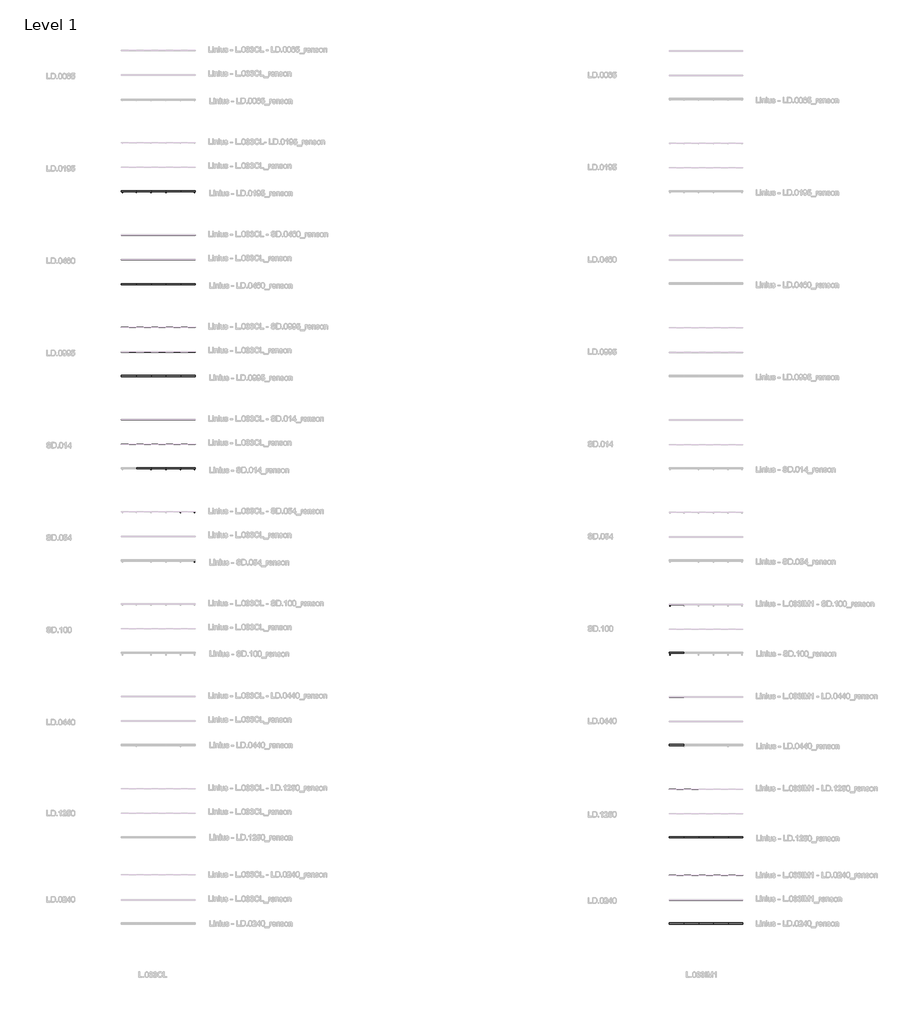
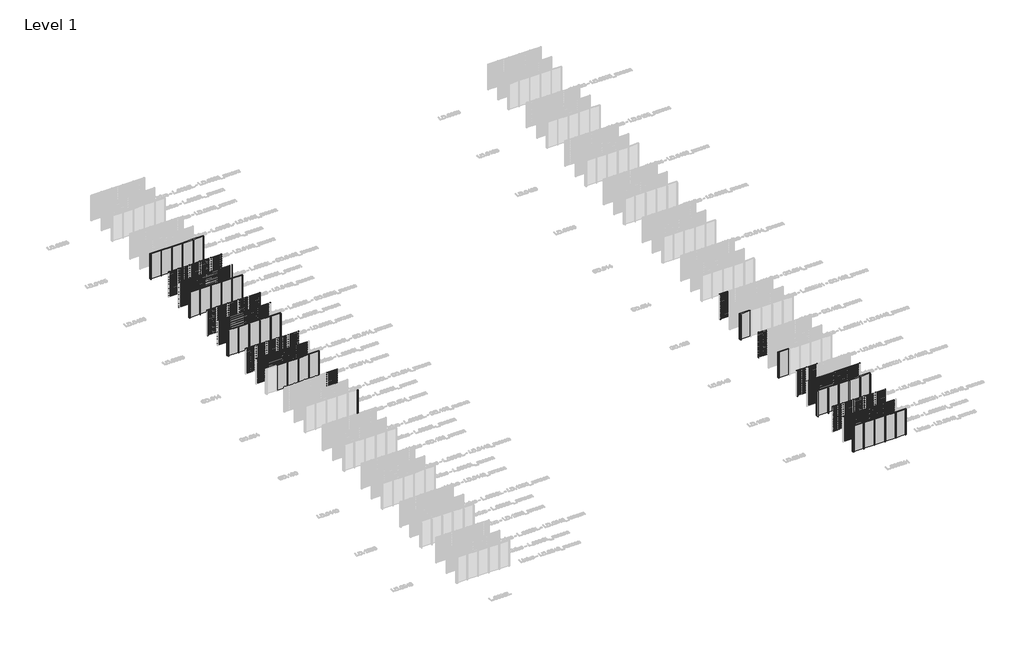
# One storey, part 7 of 507: 66 members, 61 plates.
"""IFC4 building model written with IfcOpenShell, lengths in millimetres."""

from ifc_helpers import new_model, si_unit, origin, origin_with_axes, place, context, project, spatial, polyline, outline, extrude, transform, mapped, element, save
from components import rectangular_mullion_e1f482b2, rectangular_mullion_21e3ddae, rectangular_mullion_fb497acc, rectangular_mullion_3facce28, rectangular_mullion_6cf2c509, rectangular_mullion_7803f5c4, rectangular_mullion_82152e2f, rectangular_mullion_146f339b, rectangular_mullion_aa1047c5, rectangular_mullion_c2c7736a, rectangular_mullion_35b0a916, rectangular_mullion_bd250e2e, rectangular_mullion_7b49c8f1, rectangular_mullion_2b84ad7e, rectangular_mullion_0fd695e7, rectangular_mullion_dfb17e98, rectangular_mullion_6132f1f1, rectangular_mullion_5b30f3fd, rectangular_mullion_d2d38772, rectangular_mullion_efb80f74, rectangular_mullion_aaa1fb1b, rectangular_mullion_ea9d012c, empty_system_panel_empty_aabbdda4

model = new_model("IFC4")

# Units and contexts
model_context = context("Model", 3, world=origin())
ifc_project = project(units=[si_unit("LENGTHUNIT", "METRE", prefix="MILLI")], contexts=[model_context])

# Site, building, storey
site = spatial("IfcSite", under=ifc_project)
building = spatial("IfcBuilding", under=site)
storey = spatial("IfcBuildingStorey", under=building, Name="Level 1", Elevation=0.0)

# Members
placement = place(None, origin())
rectangular_mullion_shape = rectangular_mullion_e1f482b2(model_context)
element("IfcMember", 1, ObjectType="Rectangular Mullion : LD.0195_renson", at=placement, inside=storey, context=model_context, shape_type="MappedRepresentation", body=[
    mapped(rectangular_mullion_shape, transform((180866.6208097, 62481.0540136, 0.0), x_axis=(-1.0, 0.0, 0.0), y_axis=(0.0, 1.0, 0.0), z_axis=(0.0, 0.0, -1.0))),
])
element("IfcMember", 2, ObjectType="Rectangular Mullion : LD.0195_renson", at=placement, inside=storey, context=model_context, shape_type="MappedRepresentation", body=[
    mapped(rectangular_mullion_shape, transform((179666.6208099, 62481.0540136, 0.0), x_axis=(-1.0, 0.0, 0.0), y_axis=(0.0, 1.0, 0.0), z_axis=(0.0, 0.0, -1.0))),
])
element("IfcMember", 3, ObjectType="Rectangular Mullion : LD.0195_renson", at=placement, inside=storey, context=model_context, shape_type="MappedRepresentation", body=[
    mapped(rectangular_mullion_shape, transform((182066.6208096, 62481.0540136, 0.0), x_axis=(-1.0, 0.0, 0.0), y_axis=(0.0, 1.0, 0.0), z_axis=(0.0, 0.0, -1.0))),
])
element("IfcMember", 4, ObjectType="Rectangular Mullion : LD.0195_renson", at=placement, inside=storey, context=model_context, shape_type="MappedRepresentation", body=[
    mapped(rectangular_mullion_shape, transform((183266.6208095, 62481.0540136, 0.0), x_axis=(-1.0, 0.0, 0.0), y_axis=(0.0, 1.0, 0.0), z_axis=(0.0, 0.0, -1.0))),
])
rectangular_mullion_2_shape = rectangular_mullion_21e3ddae(model_context)
element("IfcMember", 5, ObjectType="Rectangular Mullion : LD.0460_renson", at=placement, inside=storey, context=model_context, shape_type="MappedRepresentation", body=[
    mapped(rectangular_mullion_2_shape, transform((183266.6208097, 59025.0540136, 0.0), x_axis=(-1.0, 0.0, 0.0), y_axis=(0.0, 1.0, 0.0), z_axis=(0.0, 0.0, -1.0))),
])
element("IfcMember", 6, ObjectType="Rectangular Mullion : LD.0460_renson", at=placement, inside=storey, context=model_context, shape_type="MappedRepresentation", body=[
    mapped(rectangular_mullion_2_shape, transform((182066.6208097, 59025.0540136, 0.0), x_axis=(-1.0, 0.0, 0.0), y_axis=(0.0, 1.0, 0.0), z_axis=(0.0, 0.0, -1.0))),
])
element("IfcMember", 7, ObjectType="Rectangular Mullion : LD.0460_renson", at=placement, inside=storey, context=model_context, shape_type="MappedRepresentation", body=[
    mapped(rectangular_mullion_2_shape, transform((180866.6208097, 59025.0540136, 0.0), x_axis=(-1.0, 0.0, 0.0), y_axis=(0.0, 1.0, 0.0), z_axis=(0.0, 0.0, -1.0))),
])
element("IfcMember", 8, ObjectType="Rectangular Mullion : LD.0460_renson", at=placement, inside=storey, context=model_context, shape_type="MappedRepresentation", body=[
    mapped(rectangular_mullion_2_shape, transform((179666.6208097, 59025.0540136, 0.0), x_axis=(-1.0, 0.0, 0.0), y_axis=(0.0, 1.0, 0.0), z_axis=(0.0, 0.0, -1.0))),
])
element("IfcMember", 9, ObjectType="Rectangular Mullion : LD.0460_renson", at=placement, inside=storey, context=model_context, shape_type="MappedRepresentation", body=[
    mapped(rectangular_mullion_2_shape, transform((180866.6208097, 54931.0540136, 0.0), x_axis=(-1.0, 0.0, 0.0), y_axis=(0.0, 1.0, 0.0), z_axis=(0.0, 0.0, -1.0))),
])
element("IfcMember", 10, ObjectType="Rectangular Mullion : LD.0460_renson", at=placement, inside=storey, context=model_context, shape_type="MappedRepresentation", body=[
    mapped(rectangular_mullion_2_shape, transform((179666.6208099, 54931.0540136, 0.0), x_axis=(-1.0, 0.0, 0.0), y_axis=(0.0, 1.0, 0.0), z_axis=(0.0, 0.0, -1.0))),
])
element("IfcMember", 11, ObjectType="Rectangular Mullion : LD.0460_renson", at=placement, inside=storey, context=model_context, shape_type="MappedRepresentation", body=[
    mapped(rectangular_mullion_2_shape, transform((182066.6208096, 54931.0540136, 0.0), x_axis=(-1.0, 0.0, 0.0), y_axis=(0.0, 1.0, 0.0), z_axis=(0.0, 0.0, -1.0))),
])
element("IfcMember", 12, ObjectType="Rectangular Mullion : LD.0460_renson", at=placement, inside=storey, context=model_context, shape_type="MappedRepresentation", body=[
    mapped(rectangular_mullion_2_shape, transform((183266.6208095, 54931.0540136, 0.0), x_axis=(-1.0, 0.0, 0.0), y_axis=(0.0, 1.0, 0.0), z_axis=(0.0, 0.0, -1.0))),
])
rectangular_mullion_3_shape = rectangular_mullion_fb497acc(model_context)
element("IfcMember", 13, ObjectType="Rectangular Mullion : LD.0995_renson", at=placement, inside=storey, context=model_context, shape_type="MappedRepresentation", body=[
    mapped(rectangular_mullion_3_shape, transform((183266.6208097, 51525.0540136, 0.0), x_axis=(-1.0, 0.0, 0.0), y_axis=(0.0, 1.0, 0.0), z_axis=(0.0, 0.0, -1.0))),
])
element("IfcMember", 14, ObjectType="Rectangular Mullion : LD.0995_renson", at=placement, inside=storey, context=model_context, shape_type="MappedRepresentation", body=[
    mapped(rectangular_mullion_3_shape, transform((182066.6208097, 51525.0540136, 0.0), x_axis=(-1.0, 0.0, 0.0), y_axis=(0.0, 1.0, 0.0), z_axis=(0.0, 0.0, -1.0))),
])
element("IfcMember", 15, ObjectType="Rectangular Mullion : LD.0995_renson", at=placement, inside=storey, context=model_context, shape_type="MappedRepresentation", body=[
    mapped(rectangular_mullion_3_shape, transform((180866.6208097, 51525.0540136, 0.0), x_axis=(-1.0, 0.0, 0.0), y_axis=(0.0, 1.0, 0.0), z_axis=(0.0, 0.0, -1.0))),
])
element("IfcMember", 16, ObjectType="Rectangular Mullion : LD.0995_renson", at=placement, inside=storey, context=model_context, shape_type="MappedRepresentation", body=[
    mapped(rectangular_mullion_3_shape, transform((179666.6208097, 51525.0540136, 0.0), x_axis=(-1.0, 0.0, 0.0), y_axis=(0.0, 1.0, 0.0), z_axis=(0.0, 0.0, -1.0))),
])
element("IfcMember", 17, ObjectType="Rectangular Mullion : LD.0995_renson", at=placement, inside=storey, context=model_context, shape_type="MappedRepresentation", body=[
    mapped(rectangular_mullion_3_shape, transform((180866.6208097, 47481.0540136, 0.0), x_axis=(-1.0, 0.0, 0.0), y_axis=(0.0, 1.0, 0.0), z_axis=(0.0, 0.0, -1.0))),
])
element("IfcMember", 18, ObjectType="Rectangular Mullion : LD.0995_renson", at=placement, inside=storey, context=model_context, shape_type="MappedRepresentation", body=[
    mapped(rectangular_mullion_3_shape, transform((179666.6208099, 47481.0540136, 0.0), x_axis=(-1.0, 0.0, 0.0), y_axis=(0.0, 1.0, 0.0), z_axis=(0.0, 0.0, -1.0))),
])
element("IfcMember", 19, ObjectType="Rectangular Mullion : LD.0995_renson", at=placement, inside=storey, context=model_context, shape_type="MappedRepresentation", body=[
    mapped(rectangular_mullion_3_shape, transform((182066.6208096, 47481.0540136, 0.0), x_axis=(-1.0, 0.0, 0.0), y_axis=(0.0, 1.0, 0.0), z_axis=(0.0, 0.0, -1.0))),
])
element("IfcMember", 20, ObjectType="Rectangular Mullion : LD.0995_renson", at=placement, inside=storey, context=model_context, shape_type="MappedRepresentation", body=[
    mapped(rectangular_mullion_3_shape, transform((183266.6208095, 47481.0540136, 0.0), x_axis=(-1.0, 0.0, 0.0), y_axis=(0.0, 1.0, 0.0), z_axis=(0.0, 0.0, -1.0))),
])
rectangular_mullion_4_shape = rectangular_mullion_3facce28(model_context)
element("IfcMember", 21, ObjectType="Rectangular Mullion : SD.014_renson", at=placement, inside=storey, context=model_context, shape_type="MappedRepresentation", body=[
    mapped(rectangular_mullion_4_shape, transform((183266.6208097, 44025.0540136, 0.0), x_axis=(-1.0, 0.0, 0.0), y_axis=(0.0, 1.0, 0.0), z_axis=(0.0, 0.0, -1.0))),
])
element("IfcMember", 22, ObjectType="Rectangular Mullion : SD.014_renson", at=placement, inside=storey, context=model_context, shape_type="MappedRepresentation", body=[
    mapped(rectangular_mullion_4_shape, transform((182066.6208097, 44025.0540136, 0.0), x_axis=(-1.0, 0.0, 0.0), y_axis=(0.0, 1.0, 0.0), z_axis=(0.0, 0.0, -1.0))),
])
element("IfcMember", 23, ObjectType="Rectangular Mullion : SD.014_renson", at=placement, inside=storey, context=model_context, shape_type="MappedRepresentation", body=[
    mapped(rectangular_mullion_4_shape, transform((180866.6208097, 44025.0540136, 0.0), x_axis=(-1.0, 0.0, 0.0), y_axis=(0.0, 1.0, 0.0), z_axis=(0.0, 0.0, -1.0))),
])
element("IfcMember", 24, ObjectType="Rectangular Mullion : SD.014_renson", at=placement, inside=storey, context=model_context, shape_type="MappedRepresentation", body=[
    mapped(rectangular_mullion_4_shape, transform((179666.6208097, 44025.0540136, 0.0), x_axis=(-1.0, 0.0, 0.0), y_axis=(0.0, 1.0, 0.0), z_axis=(0.0, 0.0, -1.0))),
])
element("IfcMember", 25, ObjectType="Rectangular Mullion : SD.014_renson", at=placement, inside=storey, context=model_context, shape_type="MappedRepresentation", body=[
    mapped(rectangular_mullion_4_shape, transform((180866.6208097, 39981.0540136, 0.0), x_axis=(-1.0, 0.0, 0.0), y_axis=(0.0, 1.0, 0.0), z_axis=(0.0, 0.0, -1.0))),
])
element("IfcMember", 26, ObjectType="Rectangular Mullion : SD.014_renson", at=placement, inside=storey, context=model_context, shape_type="MappedRepresentation", body=[
    mapped(rectangular_mullion_4_shape, transform((182066.6208096, 39981.0540136, 0.0), x_axis=(-1.0, 0.0, 0.0), y_axis=(0.0, 1.0, 0.0), z_axis=(0.0, 0.0, -1.0))),
])
element("IfcMember", 27, ObjectType="Rectangular Mullion : SD.014_renson", at=placement, inside=storey, context=model_context, shape_type="MappedRepresentation", body=[
    mapped(rectangular_mullion_4_shape, transform((183266.6208095, 39981.0540136, 0.0), x_axis=(-1.0, 0.0, 0.0), y_axis=(0.0, 1.0, 0.0), z_axis=(0.0, 0.0, -1.0))),
])
rectangular_mullion_5_shape = rectangular_mullion_6cf2c509(model_context)
element("IfcMember", 28, ObjectType="Rectangular Mullion : SD.054_renson", at=placement, inside=storey, context=model_context, shape_type="MappedRepresentation", body=[
    mapped(rectangular_mullion_5_shape, transform((183266.6208097, 36525.0540136, 0.0), x_axis=(-1.0, 0.0, 0.0), y_axis=(0.0, 1.0, 0.0), z_axis=(0.0, 0.0, -1.0))),
])
rectangular_mullion_6_shape = rectangular_mullion_7803f5c4(model_context)
element("IfcMember", 29, ObjectType="Rectangular Mullion : LD.1250_renson", at=placement, inside=storey, context=model_context, shape_type="MappedRepresentation", body=[
    mapped(rectangular_mullion_6_shape, transform((227766.6208095, 9983.0540136, 0.0), x_axis=(-1.0, 0.0, 0.0), y_axis=(0.0, 1.0, 0.0), z_axis=(0.0, 0.0, -1.0))),
])
element("IfcMember", 30, ObjectType="Rectangular Mullion : LD.1250_renson", at=placement, inside=storey, context=model_context, shape_type="MappedRepresentation", body=[
    mapped(rectangular_mullion_6_shape, transform((226566.6208096, 9983.0540136, 0.0), x_axis=(-1.0, 0.0, 0.0), y_axis=(0.0, 1.0, 0.0), z_axis=(0.0, 0.0, -1.0))),
])
element("IfcMember", 31, ObjectType="Rectangular Mullion : LD.1250_renson", at=placement, inside=storey, context=model_context, shape_type="MappedRepresentation", body=[
    mapped(rectangular_mullion_6_shape, transform((225366.6208097, 9983.0540136, 0.0), x_axis=(-1.0, 0.0, 0.0), y_axis=(0.0, 1.0, 0.0), z_axis=(0.0, 0.0, -1.0))),
])
element("IfcMember", 32, ObjectType="Rectangular Mullion : LD.1250_renson", at=placement, inside=storey, context=model_context, shape_type="MappedRepresentation", body=[
    mapped(rectangular_mullion_6_shape, transform((224166.6208099, 9983.0540136, 0.0), x_axis=(-1.0, 0.0, 0.0), y_axis=(0.0, 1.0, 0.0), z_axis=(0.0, 0.0, -1.0))),
])
rectangular_mullion_7_shape = rectangular_mullion_82152e2f(model_context)
element("IfcMember", 33, ObjectType="Rectangular Mullion : LD.0240_renson", at=placement, inside=storey, context=model_context, shape_type="MappedRepresentation", body=[
    mapped(rectangular_mullion_7_shape, transform((227766.6208097, 6987.0270068, 0.0), x_axis=(-1.0, 0.0, 0.0), y_axis=(0.0, 1.0, 0.0), z_axis=(0.0, 0.0, -1.0))),
])
element("IfcMember", 34, ObjectType="Rectangular Mullion : LD.0240_renson", at=placement, inside=storey, context=model_context, shape_type="MappedRepresentation", body=[
    mapped(rectangular_mullion_7_shape, transform((226566.6208097, 6987.0270068, 0.0), x_axis=(-1.0, 0.0, 0.0), y_axis=(0.0, 1.0, 0.0), z_axis=(0.0, 0.0, -1.0))),
])
element("IfcMember", 35, ObjectType="Rectangular Mullion : LD.0240_renson", at=placement, inside=storey, context=model_context, shape_type="MappedRepresentation", body=[
    mapped(rectangular_mullion_7_shape, transform((225366.6208097, 6987.0270068, 0.0), x_axis=(-1.0, 0.0, 0.0), y_axis=(0.0, 1.0, 0.0), z_axis=(0.0, 0.0, -1.0))),
])
element("IfcMember", 36, ObjectType="Rectangular Mullion : LD.0240_renson", at=placement, inside=storey, context=model_context, shape_type="MappedRepresentation", body=[
    mapped(rectangular_mullion_7_shape, transform((224166.6208097, 6987.0270068, 0.0), x_axis=(-1.0, 0.0, 0.0), y_axis=(0.0, 1.0, 0.0), z_axis=(0.0, 0.0, -1.0))),
])
element("IfcMember", 37, ObjectType="Rectangular Mullion : LD.0240_renson", at=placement, inside=storey, context=model_context, shape_type="MappedRepresentation", body=[
    mapped(rectangular_mullion_7_shape, transform((227766.6208095, 2987.0270068, 0.0), x_axis=(-1.0, 0.0, 0.0), y_axis=(0.0, 1.0, 0.0), z_axis=(0.0, 0.0, -1.0))),
])
element("IfcMember", 38, ObjectType="Rectangular Mullion : LD.0240_renson", at=placement, inside=storey, context=model_context, shape_type="MappedRepresentation", body=[
    mapped(rectangular_mullion_7_shape, transform((226566.6208096, 2987.0270068, 0.0), x_axis=(-1.0, 0.0, 0.0), y_axis=(0.0, 1.0, 0.0), z_axis=(0.0, 0.0, -1.0))),
])
element("IfcMember", 39, ObjectType="Rectangular Mullion : LD.0240_renson", at=placement, inside=storey, context=model_context, shape_type="MappedRepresentation", body=[
    mapped(rectangular_mullion_7_shape, transform((225366.6208097, 2987.0270068, 0.0), x_axis=(-1.0, 0.0, 0.0), y_axis=(0.0, 1.0, 0.0), z_axis=(0.0, 0.0, -1.0))),
])
element("IfcMember", 40, ObjectType="Rectangular Mullion : LD.0240_renson", at=placement, inside=storey, context=model_context, shape_type="MappedRepresentation", body=[
    mapped(rectangular_mullion_7_shape, transform((224166.6208099, 2987.0270068, 0.0), x_axis=(-1.0, 0.0, 0.0), y_axis=(0.0, 1.0, 0.0), z_axis=(0.0, 0.0, -1.0))),
])
rectangular_mullion_8_shape = rectangular_mullion_146f339b(model_context)
element("IfcMember", 41, ObjectType="Rectangular Mullion : LD.0195 - left_renson", at=placement, inside=storey, context=model_context, shape_type="MappedRepresentation", body=[
    mapped(rectangular_mullion_8_shape, transform((178466.6208097, 62481.0540136, 0.0), x_axis=(-1.0, 0.0, 0.0), y_axis=(0.0, 1.0, 0.0), z_axis=(0.0, 0.0, -1.0))),
])
rectangular_mullion_9_shape = rectangular_mullion_aa1047c5(model_context)
element("IfcMember", 42, ObjectType="Rectangular Mullion : LD.0195 - right_renson", at=placement, inside=storey, context=model_context, shape_type="MappedRepresentation", body=[
    mapped(rectangular_mullion_9_shape, transform((184466.6208097, 62481.0540136, 3000.0), x_axis=(1.0, 0.0, 0.0), y_axis=(0.0, 1.0, 0.0), z_axis=(0.0, 0.0, 1.0))),
])
rectangular_mullion_10_shape = rectangular_mullion_c2c7736a(model_context)
element("IfcMember", 43, ObjectType="Rectangular Mullion : LD.0460 - left_renson", at=placement, inside=storey, context=model_context, shape_type="MappedRepresentation", body=[
    mapped(rectangular_mullion_10_shape, transform((178466.6208097, 59025.0540136, 0.0), x_axis=(-1.0, 0.0, 0.0), y_axis=(0.0, 1.0, 0.0), z_axis=(0.0, 0.0, -1.0))),
])
element("IfcMember", 44, ObjectType="Rectangular Mullion : LD.0460 - left_renson", at=placement, inside=storey, context=model_context, shape_type="MappedRepresentation", body=[
    mapped(rectangular_mullion_10_shape, transform((178466.6208097, 54931.0540136, 0.0), x_axis=(-1.0, 0.0, 0.0), y_axis=(0.0, 1.0, 0.0), z_axis=(0.0, 0.0, -1.0))),
])
rectangular_mullion_11_shape = rectangular_mullion_35b0a916(model_context)
element("IfcMember", 45, ObjectType="Rectangular Mullion : LD.0460 - right_renson", at=placement, inside=storey, context=model_context, shape_type="MappedRepresentation", body=[
    mapped(rectangular_mullion_11_shape, transform((184466.6208097, 59025.0540136, 3000.0), x_axis=(1.0, 0.0, 0.0), y_axis=(0.0, 1.0, 0.0), z_axis=(0.0, 0.0, 1.0))),
])
element("IfcMember", 46, ObjectType="Rectangular Mullion : LD.0460 - right_renson", at=placement, inside=storey, context=model_context, shape_type="MappedRepresentation", body=[
    mapped(rectangular_mullion_11_shape, transform((184466.6208097, 54931.0540136, 3000.0), x_axis=(1.0, 0.0, 0.0), y_axis=(0.0, 1.0, 0.0), z_axis=(0.0, 0.0, 1.0))),
])
rectangular_mullion_12_shape = rectangular_mullion_bd250e2e(model_context)
element("IfcMember", 47, ObjectType="Rectangular Mullion : LD.0995 - left_renson", at=placement, inside=storey, context=model_context, shape_type="MappedRepresentation", body=[
    mapped(rectangular_mullion_12_shape, transform((178466.6208097, 51525.0540136, 0.0), x_axis=(-1.0, 0.0, 0.0), y_axis=(0.0, 1.0, 0.0), z_axis=(0.0, 0.0, -1.0))),
])
element("IfcMember", 48, ObjectType="Rectangular Mullion : LD.0995 - left_renson", at=placement, inside=storey, context=model_context, shape_type="MappedRepresentation", body=[
    mapped(rectangular_mullion_12_shape, transform((178466.6208097, 47481.0540136, 0.0), x_axis=(-1.0, 0.0, 0.0), y_axis=(0.0, 1.0, 0.0), z_axis=(0.0, 0.0, -1.0))),
])
rectangular_mullion_13_shape = rectangular_mullion_7b49c8f1(model_context)
element("IfcMember", 49, ObjectType="Rectangular Mullion : LD.0995 - right_renson", at=placement, inside=storey, context=model_context, shape_type="MappedRepresentation", body=[
    mapped(rectangular_mullion_13_shape, transform((184466.6208097, 51525.0540136, 3000.0), x_axis=(1.0, 0.0, 0.0), y_axis=(0.0, 1.0, 0.0), z_axis=(0.0, 0.0, 1.0))),
])
element("IfcMember", 50, ObjectType="Rectangular Mullion : LD.0995 - right_renson", at=placement, inside=storey, context=model_context, shape_type="MappedRepresentation", body=[
    mapped(rectangular_mullion_13_shape, transform((184466.6208097, 47481.0540136, 3000.0), x_axis=(1.0, 0.0, 0.0), y_axis=(0.0, 1.0, 0.0), z_axis=(0.0, 0.0, 1.0))),
])
rectangular_mullion_14_shape = rectangular_mullion_2b84ad7e(model_context)
element("IfcMember", 51, ObjectType="Rectangular Mullion : SD.014 - left_renson", at=placement, inside=storey, context=model_context, shape_type="MappedRepresentation", body=[
    mapped(rectangular_mullion_14_shape, transform((178466.6208097, 44025.0540136, 0.0), x_axis=(-1.0, 0.0, 0.0), y_axis=(0.0, 1.0, 0.0), z_axis=(0.0, 0.0, -1.0))),
])
rectangular_mullion_15_shape = rectangular_mullion_0fd695e7(model_context)
element("IfcMember", 52, ObjectType="Rectangular Mullion : SD.014 - right_renson", at=placement, inside=storey, context=model_context, shape_type="MappedRepresentation", body=[
    mapped(rectangular_mullion_15_shape, transform((184466.6208097, 44025.0540136, 3000.0), x_axis=(1.0, 0.0, 0.0), y_axis=(0.0, 1.0, 0.0), z_axis=(0.0, 0.0, 1.0))),
])
element("IfcMember", 53, ObjectType="Rectangular Mullion : SD.014 - right_renson", at=placement, inside=storey, context=model_context, shape_type="MappedRepresentation", body=[
    mapped(rectangular_mullion_15_shape, transform((184466.6208097, 39981.0540136, 3000.0), x_axis=(1.0, 0.0, 0.0), y_axis=(0.0, 1.0, 0.0), z_axis=(0.0, 0.0, 1.0))),
])
rectangular_mullion_16_shape = rectangular_mullion_dfb17e98(model_context)
element("IfcMember", 54, ObjectType="Rectangular Mullion : SD.054 - right_renson", at=placement, inside=storey, context=model_context, shape_type="MappedRepresentation", body=[
    mapped(rectangular_mullion_16_shape, transform((184466.6208097, 36525.0540136, 3000.0), x_axis=(1.0, 0.0, 0.0), y_axis=(0.0, 1.0, 0.0), z_axis=(0.0, 0.0, 1.0))),
])
element("IfcMember", 55, ObjectType="Rectangular Mullion : SD.054 - right_renson", at=placement, inside=storey, context=model_context, shape_type="MappedRepresentation", body=[
    mapped(rectangular_mullion_16_shape, transform((184466.6208097, 32481.0540136, 3000.0), x_axis=(1.0, 0.0, 0.0), y_axis=(0.0, 1.0, 0.0), z_axis=(0.0, 0.0, 1.0))),
])
rectangular_mullion_17_shape = rectangular_mullion_6132f1f1(model_context)
element("IfcMember", 56, ObjectType="Rectangular Mullion : SD.100 - left_renson", at=placement, inside=storey, context=model_context, shape_type="MappedRepresentation", body=[
    mapped(rectangular_mullion_17_shape, transform((222966.6208097, 28983.0540136, 0.0), x_axis=(-1.0, 0.0, 0.0), y_axis=(0.0, 1.0, 0.0), z_axis=(0.0, 0.0, -1.0))),
])
element("IfcMember", 57, ObjectType="Rectangular Mullion : SD.100 - left_renson", at=placement, inside=storey, context=model_context, shape_type="MappedRepresentation", body=[
    mapped(rectangular_mullion_17_shape, transform((222966.6208097, 24983.0540136, 0.0), x_axis=(-1.0, 0.0, 0.0), y_axis=(0.0, 1.0, 0.0), z_axis=(0.0, 0.0, -1.0))),
])
rectangular_mullion_18_shape = rectangular_mullion_5b30f3fd(model_context)
element("IfcMember", 58, ObjectType="Rectangular Mullion : LD.0440 - left_renson", at=placement, inside=storey, context=model_context, shape_type="MappedRepresentation", body=[
    mapped(rectangular_mullion_18_shape, transform((222966.6208097, 21483.0540136, 0.0), x_axis=(-1.0, 0.0, 0.0), y_axis=(0.0, 1.0, 0.0), z_axis=(0.0, 0.0, -1.0))),
])
element("IfcMember", 59, ObjectType="Rectangular Mullion : LD.0440 - left_renson", at=placement, inside=storey, context=model_context, shape_type="MappedRepresentation", body=[
    mapped(rectangular_mullion_18_shape, transform((222966.6208097, 17483.0540136, 0.0), x_axis=(-1.0, 0.0, 0.0), y_axis=(0.0, 1.0, 0.0), z_axis=(0.0, 0.0, -1.0))),
])
rectangular_mullion_19_shape = rectangular_mullion_d2d38772(model_context)
element("IfcMember", 60, ObjectType="Rectangular Mullion : LD.1250 - left_renson", at=placement, inside=storey, context=model_context, shape_type="MappedRepresentation", body=[
    mapped(rectangular_mullion_19_shape, transform((222966.6208097, 13983.0540136, 0.0), x_axis=(-1.0, 0.0, 0.0), y_axis=(0.0, 1.0, 0.0), z_axis=(0.0, 0.0, -1.0))),
])
element("IfcMember", 61, ObjectType="Rectangular Mullion : LD.1250 - left_renson", at=placement, inside=storey, context=model_context, shape_type="MappedRepresentation", body=[
    mapped(rectangular_mullion_19_shape, transform((222966.6208097, 9983.0540136, 0.0), x_axis=(-1.0, 0.0, 0.0), y_axis=(0.0, 1.0, 0.0), z_axis=(0.0, 0.0, -1.0))),
])
rectangular_mullion_20_shape = rectangular_mullion_efb80f74(model_context)
element("IfcMember", 62, ObjectType="Rectangular Mullion : LD.1250 - right_renson", at=placement, inside=storey, context=model_context, shape_type="MappedRepresentation", body=[
    mapped(rectangular_mullion_20_shape, transform((228966.6208097, 9983.0540136, 3000.0), x_axis=(1.0, 0.0, 0.0), y_axis=(0.0, 1.0, 0.0), z_axis=(0.0, 0.0, 1.0))),
])
rectangular_mullion_21_shape = rectangular_mullion_aaa1fb1b(model_context)
element("IfcMember", 63, ObjectType="Rectangular Mullion : LD.0240 - left_renson", at=placement, inside=storey, context=model_context, shape_type="MappedRepresentation", body=[
    mapped(rectangular_mullion_21_shape, transform((222966.6208097, 6987.0270068, 0.0), x_axis=(-1.0, 0.0, 0.0), y_axis=(0.0, 1.0, 0.0), z_axis=(0.0, 0.0, -1.0))),
])
element("IfcMember", 64, ObjectType="Rectangular Mullion : LD.0240 - left_renson", at=placement, inside=storey, context=model_context, shape_type="MappedRepresentation", body=[
    mapped(rectangular_mullion_21_shape, transform((222966.6208097, 2987.0270068, 0.0), x_axis=(-1.0, 0.0, 0.0), y_axis=(0.0, 1.0, 0.0), z_axis=(0.0, 0.0, -1.0))),
])
rectangular_mullion_22_shape = rectangular_mullion_ea9d012c(model_context)
element("IfcMember", 65, ObjectType="Rectangular Mullion : LD.0240 - right_renson", at=placement, inside=storey, context=model_context, shape_type="MappedRepresentation", body=[
    mapped(rectangular_mullion_22_shape, transform((228966.6208097, 6987.0270068, 3000.0), x_axis=(1.0, 0.0, 0.0), y_axis=(0.0, 1.0, 0.0), z_axis=(0.0, 0.0, 1.0))),
])
element("IfcMember", 66, ObjectType="Rectangular Mullion : LD.0240 - right_renson", at=placement, inside=storey, context=model_context, shape_type="MappedRepresentation", body=[
    mapped(rectangular_mullion_22_shape, transform((228966.6208097, 2987.0270068, 3000.0), x_axis=(1.0, 0.0, 0.0), y_axis=(0.0, 1.0, 0.0), z_axis=(0.0, 0.0, 1.0))),
])

# Plates
element("IfcPlate", 67, ObjectType="Linius - L.033IM1_renson", at=placement, inside=storey, context=model_context, shape_type="SweptSolid", body=[
    extrude(outline(polyline([(222966.6208097, 4988.0270068), (228966.6208097, 4988.0270068), (228966.6208097, 4986.0270068), (222966.6208097, 4986.0270068), (222966.6208097, 4988.0270068)])), origin_with_axes(), (0.0, 0.0, 1.0), 3000.0),
])
element("IfcPlate", 68, ObjectType="Linius - L.033CL_renson", at=placement, inside=storey, context=model_context, shape_type="SweptSolid", body=[
    extrude(outline(polyline([(178466.6208097, 59026.0540136), (179666.6208097, 59026.0540136), (179666.6208097, 59024.0540136), (178466.6208097, 59024.0540136), (178466.6208097, 59026.0540136)])), origin_with_axes(), (0.0, 0.0, 1.0), 3000.0),
])
element("IfcPlate", 69, ObjectType="Linius - L.033CL_renson", at=placement, inside=storey, context=model_context, shape_type="SweptSolid", body=[
    extrude(outline(polyline([(179666.6208097, 59026.0540136), (180866.6208097, 59026.0540136), (180866.6208097, 59024.0540136), (179666.6208097, 59024.0540136), (179666.6208097, 59026.0540136)])), origin_with_axes(), (0.0, 0.0, 1.0), 3000.0),
])
element("IfcPlate", 70, ObjectType="Linius - L.033CL_renson", at=placement, inside=storey, context=model_context, shape_type="SweptSolid", body=[
    extrude(outline(polyline([(180866.6208097, 59026.0540136), (182066.6208097, 59026.0540136), (182066.6208097, 59024.0540136), (180866.6208097, 59024.0540136), (180866.6208097, 59026.0540136)])), origin_with_axes(), (0.0, 0.0, 1.0), 3000.0),
])
element("IfcPlate", 71, ObjectType="Linius - L.033CL_renson", at=placement, inside=storey, context=model_context, shape_type="SweptSolid", body=[
    extrude(outline(polyline([(182066.6208097, 59026.0540136), (183266.6208097, 59026.0540136), (183266.6208097, 59024.0540136), (182066.6208097, 59024.0540136), (182066.6208097, 59026.0540136)])), origin_with_axes(), (0.0, 0.0, 1.0), 3000.0),
])
element("IfcPlate", 72, ObjectType="Linius - L.033CL_renson", at=placement, inside=storey, context=model_context, shape_type="SweptSolid", body=[
    extrude(outline(polyline([(183266.6208097, 59026.0540136), (184466.6208097, 59026.0540136), (184466.6208097, 59024.0540136), (183266.6208097, 59024.0540136), (183266.6208097, 59026.0540136)])), origin_with_axes(), (0.0, 0.0, 1.0), 3000.0),
])
element("IfcPlate", 73, ObjectType="Linius - L.033CL_renson", at=placement, inside=storey, context=model_context, shape_type="SweptSolid", body=[
    extrude(outline(polyline([(178466.6208097, 57026.0540136), (184466.6208097, 57026.0540136), (184466.6208097, 57024.0540136), (178466.6208097, 57024.0540136), (178466.6208097, 57026.0540136)])), origin_with_axes(), (0.0, 0.0, 1.0), 3000.0),
])
element("IfcPlate", 74, ObjectType="Linius - L.033CL_renson", at=placement, inside=storey, context=model_context, shape_type="SweptSolid", body=[
    extrude(outline(polyline([(178466.6208097, 51526.0540136), (179666.6208097, 51526.0540136), (179666.6208097, 51524.0540136), (178466.6208097, 51524.0540136), (178466.6208097, 51526.0540136)])), origin_with_axes(), (0.0, 0.0, 1.0), 3000.0),
])
element("IfcPlate", 75, ObjectType="Linius - L.033CL_renson", at=placement, inside=storey, context=model_context, shape_type="SweptSolid", body=[
    extrude(outline(polyline([(179666.6208097, 51526.0540136), (180866.6208097, 51526.0540136), (180866.6208097, 51524.0540136), (179666.6208097, 51524.0540136), (179666.6208097, 51526.0540136)])), origin_with_axes(), (0.0, 0.0, 1.0), 3000.0),
])
element("IfcPlate", 76, ObjectType="Linius - L.033CL_renson", at=placement, inside=storey, context=model_context, shape_type="SweptSolid", body=[
    extrude(outline(polyline([(180866.6208097, 51526.0540136), (182066.6208097, 51526.0540136), (182066.6208097, 51524.0540136), (180866.6208097, 51524.0540136), (180866.6208097, 51526.0540136)])), origin_with_axes(), (0.0, 0.0, 1.0), 3000.0),
])
element("IfcPlate", 77, ObjectType="Linius - L.033CL_renson", at=placement, inside=storey, context=model_context, shape_type="SweptSolid", body=[
    extrude(outline(polyline([(182066.6208097, 51526.0540136), (183266.6208097, 51526.0540136), (183266.6208097, 51524.0540136), (182066.6208097, 51524.0540136), (182066.6208097, 51526.0540136)])), origin_with_axes(), (0.0, 0.0, 1.0), 3000.0),
])
element("IfcPlate", 78, ObjectType="Linius - L.033CL_renson", at=placement, inside=storey, context=model_context, shape_type="SweptSolid", body=[
    extrude(outline(polyline([(183266.6208097, 51526.0540136), (184466.6208097, 51526.0540136), (184466.6208097, 51524.0540136), (183266.6208097, 51524.0540136), (183266.6208097, 51526.0540136)])), origin_with_axes(), (0.0, 0.0, 1.0), 3000.0),
])
element("IfcPlate", 79, ObjectType="Linius - L.033CL_renson", at=placement, inside=storey, context=model_context, shape_type="SweptSolid", body=[
    extrude(outline(polyline([(178466.6208097, 49526.0540136), (184466.6208097, 49526.0540136), (184466.6208097, 49524.0540136), (178466.6208097, 49524.0540136), (178466.6208097, 49526.0540136)])), origin_with_axes(), (0.0, 0.0, 1.0), 3000.0),
])
element("IfcPlate", 80, ObjectType="Linius - L.033CL_renson", at=placement, inside=storey, context=model_context, shape_type="SweptSolid", body=[
    extrude(outline(polyline([(178466.6208097, 44026.0540136), (179666.6208097, 44026.0540136), (179666.6208097, 44024.0540136), (178466.6208097, 44024.0540136), (178466.6208097, 44026.0540136)])), origin_with_axes(), (0.0, 0.0, 1.0), 3000.0),
])
element("IfcPlate", 81, ObjectType="Linius - L.033CL_renson", at=placement, inside=storey, context=model_context, shape_type="SweptSolid", body=[
    extrude(outline(polyline([(179666.6208097, 44026.0540136), (180866.6208097, 44026.0540136), (180866.6208097, 44024.0540136), (179666.6208097, 44024.0540136), (179666.6208097, 44026.0540136)])), origin_with_axes(), (0.0, 0.0, 1.0), 3000.0),
])
element("IfcPlate", 82, ObjectType="Linius - L.033CL_renson", at=placement, inside=storey, context=model_context, shape_type="SweptSolid", body=[
    extrude(outline(polyline([(180866.6208097, 44026.0540136), (182066.6208097, 44026.0540136), (182066.6208097, 44024.0540136), (180866.6208097, 44024.0540136), (180866.6208097, 44026.0540136)])), origin_with_axes(), (0.0, 0.0, 1.0), 3000.0),
])
element("IfcPlate", 83, ObjectType="Linius - L.033CL_renson", at=placement, inside=storey, context=model_context, shape_type="SweptSolid", body=[
    extrude(outline(polyline([(182066.6208097, 44026.0540136), (183266.6208097, 44026.0540136), (183266.6208097, 44024.0540136), (182066.6208097, 44024.0540136), (182066.6208097, 44026.0540136)])), origin_with_axes(), (0.0, 0.0, 1.0), 3000.0),
])
element("IfcPlate", 84, ObjectType="Linius - L.033CL_renson", at=placement, inside=storey, context=model_context, shape_type="SweptSolid", body=[
    extrude(outline(polyline([(183266.6208097, 44026.0540136), (184466.6208097, 44026.0540136), (184466.6208097, 44024.0540136), (183266.6208097, 44024.0540136), (183266.6208097, 44026.0540136)])), origin_with_axes(), (0.0, 0.0, 1.0), 3000.0),
])
element("IfcPlate", 85, ObjectType="Linius - L.033CL_renson", at=placement, inside=storey, context=model_context, shape_type="SweptSolid", body=[
    extrude(outline(polyline([(178466.6208097, 42026.0540136), (184466.6208097, 42026.0540136), (184466.6208097, 42024.0540136), (178466.6208097, 42024.0540136), (178466.6208097, 42026.0540136)])), origin_with_axes(), (0.0, 0.0, 1.0), 3000.0),
])
element("IfcPlate", 86, ObjectType="Linius - L.033CL_renson", at=placement, inside=storey, context=model_context, shape_type="SweptSolid", body=[
    extrude(outline(polyline([(183266.6208097, 36526.0540136), (184466.6208097, 36526.0540136), (184466.6208097, 36524.0540136), (183266.6208097, 36524.0540136), (183266.6208097, 36526.0540136)])), origin_with_axes(), (0.0, 0.0, 1.0), 3000.0),
])
element("IfcPlate", 87, ObjectType="Linius - L.033IM1_renson", at=placement, inside=storey, context=model_context, shape_type="SweptSolid", body=[
    extrude(outline(polyline([(222966.6208097, 28984.0540136), (224166.6208097, 28984.0540136), (224166.6208097, 28982.0540136), (222966.6208097, 28982.0540136), (222966.6208097, 28984.0540136)])), origin_with_axes(), (0.0, 0.0, 1.0), 3000.0),
])
element("IfcPlate", 88, ObjectType="Linius - L.033IM1_renson", at=placement, inside=storey, context=model_context, shape_type="SweptSolid", body=[
    extrude(outline(polyline([(222966.6208097, 21484.0540136), (224166.6208097, 21484.0540136), (224166.6208097, 21482.0540136), (222966.6208097, 21482.0540136), (222966.6208097, 21484.0540136)])), origin_with_axes(), (0.0, 0.0, 1.0), 3000.0),
])
element("IfcPlate", 89, ObjectType="Linius - L.033IM1_renson", at=placement, inside=storey, context=model_context, shape_type="SweptSolid", body=[
    extrude(outline(polyline([(222966.6208097, 13984.0540136), (224166.6208097, 13984.0540136), (224166.6208097, 13982.0540136), (222966.6208097, 13982.0540136), (222966.6208097, 13984.0540136)])), origin_with_axes(), (0.0, 0.0, 1.0), 3000.0),
])
element("IfcPlate", 90, ObjectType="Linius - L.033IM1_renson", at=placement, inside=storey, context=model_context, shape_type="SweptSolid", body=[
    extrude(outline(polyline([(224166.6208097, 13984.0540136), (225366.6208097, 13984.0540136), (225366.6208097, 13982.0540136), (224166.6208097, 13982.0540136), (224166.6208097, 13984.0540136)])), origin_with_axes(), (0.0, 0.0, 1.0), 3000.0),
])
element("IfcPlate", 91, ObjectType="Linius - L.033IM1_renson", at=placement, inside=storey, context=model_context, shape_type="SweptSolid", body=[
    extrude(outline(polyline([(222966.6208097, 11984.0540136), (228966.6208097, 11984.0540136), (228966.6208097, 11982.0540136), (222966.6208097, 11982.0540136), (222966.6208097, 11984.0540136)])), origin_with_axes(), (0.0, 0.0, 1.0), 3000.0),
])
element("IfcPlate", 92, ObjectType="Linius - L.033IM1_renson", at=placement, inside=storey, context=model_context, shape_type="SweptSolid", body=[
    extrude(outline(polyline([(222966.6208097, 6988.0270068), (224166.6208097, 6988.0270068), (224166.6208097, 6986.0270068), (222966.6208097, 6986.0270068), (222966.6208097, 6988.0270068)])), origin_with_axes(), (0.0, 0.0, 1.0), 3000.0),
])
element("IfcPlate", 93, ObjectType="Linius - L.033IM1_renson", at=placement, inside=storey, context=model_context, shape_type="SweptSolid", body=[
    extrude(outline(polyline([(224166.6208097, 6988.0270068), (225366.6208097, 6988.0270068), (225366.6208097, 6986.0270068), (224166.6208097, 6986.0270068), (224166.6208097, 6988.0270068)])), origin_with_axes(), (0.0, 0.0, 1.0), 3000.0),
])
element("IfcPlate", 94, ObjectType="Linius - L.033IM1_renson", at=placement, inside=storey, context=model_context, shape_type="SweptSolid", body=[
    extrude(outline(polyline([(225366.6208097, 6988.0270068), (226566.6208097, 6988.0270068), (226566.6208097, 6986.0270068), (225366.6208097, 6986.0270068), (225366.6208097, 6988.0270068)])), origin_with_axes(), (0.0, 0.0, 1.0), 3000.0),
])
element("IfcPlate", 95, ObjectType="Linius - L.033IM1_renson", at=placement, inside=storey, context=model_context, shape_type="SweptSolid", body=[
    extrude(outline(polyline([(226566.6208097, 6988.0270068), (227766.6208097, 6988.0270068), (227766.6208097, 6986.0270068), (226566.6208097, 6986.0270068), (226566.6208097, 6988.0270068)])), origin_with_axes(), (0.0, 0.0, 1.0), 3000.0),
])
element("IfcPlate", 96, ObjectType="Linius - L.033IM1_renson", at=placement, inside=storey, context=model_context, shape_type="SweptSolid", body=[
    extrude(outline(polyline([(227766.6208097, 6988.0270068), (228966.6208097, 6988.0270068), (228966.6208097, 6986.0270068), (227766.6208097, 6986.0270068), (227766.6208097, 6988.0270068)])), origin_with_axes(), (0.0, 0.0, 1.0), 3000.0),
])
empty_system_panel_empty_shape = empty_system_panel_empty_aabbdda4(model_context)
element("IfcPlate", 97, ObjectType="Empty System Panel : Empty", at=placement, inside=storey, context=model_context, shape_type="MappedRepresentation", body=[
    mapped(empty_system_panel_empty_shape, transform((183866.6208096, 62481.0540136, 0.0), x_axis=(-1.0, 0.0, 0.0), y_axis=(0.0, -1.0, 0.0), z_axis=(0.0, 0.0, 1.0))),
])
element("IfcPlate", 98, ObjectType="Empty System Panel : Empty", at=placement, inside=storey, context=model_context, shape_type="MappedRepresentation", body=[
    mapped(empty_system_panel_empty_shape, transform((183866.6208096, 54931.0540136, 0.0), x_axis=(-1.0, 0.0, 0.0), y_axis=(0.0, -1.0, 0.0), z_axis=(0.0, 0.0, 1.0))),
])
element("IfcPlate", 99, ObjectType="Empty System Panel : Empty", at=placement, inside=storey, context=model_context, shape_type="MappedRepresentation", body=[
    mapped(empty_system_panel_empty_shape, transform((183866.6208096, 47481.0540136, 0.0), x_axis=(-1.0, 0.0, 0.0), y_axis=(0.0, -1.0, 0.0), z_axis=(0.0, 0.0, 1.0))),
])
element("IfcPlate", 100, ObjectType="Empty System Panel : Empty", at=placement, inside=storey, context=model_context, shape_type="MappedRepresentation", body=[
    mapped(empty_system_panel_empty_shape, transform((183866.6208096, 39981.0540136, 0.0), x_axis=(-1.0, 0.0, 0.0), y_axis=(0.0, -1.0, 0.0), z_axis=(0.0, 0.0, 1.0))),
])
element("IfcPlate", 101, ObjectType="Empty System Panel : Empty", at=placement, inside=storey, context=model_context, shape_type="MappedRepresentation", body=[
    mapped(empty_system_panel_empty_shape, transform((180266.6208098, 62481.0540136, 0.0), x_axis=(-1.0, 0.0, 0.0), y_axis=(0.0, -1.0, 0.0), z_axis=(0.0, 0.0, 1.0))),
])
element("IfcPlate", 102, ObjectType="Empty System Panel : Empty", at=placement, inside=storey, context=model_context, shape_type="MappedRepresentation", body=[
    mapped(empty_system_panel_empty_shape, transform((179066.6208098, 62481.0540136, 0.0), x_axis=(-1.0, 0.0, 0.0), y_axis=(0.0, -1.0, 0.0), z_axis=(0.0, 0.0, 1.0))),
])
element("IfcPlate", 103, ObjectType="Empty System Panel : Empty", at=placement, inside=storey, context=model_context, shape_type="MappedRepresentation", body=[
    mapped(empty_system_panel_empty_shape, transform((180266.6208098, 54931.0540136, 0.0), x_axis=(-1.0, 0.0, 0.0), y_axis=(0.0, -1.0, 0.0), z_axis=(0.0, 0.0, 1.0))),
])
element("IfcPlate", 104, ObjectType="Empty System Panel : Empty", at=placement, inside=storey, context=model_context, shape_type="MappedRepresentation", body=[
    mapped(empty_system_panel_empty_shape, transform((179066.6208098, 54931.0540136, 0.0), x_axis=(-1.0, 0.0, 0.0), y_axis=(0.0, -1.0, 0.0), z_axis=(0.0, 0.0, 1.0))),
])
element("IfcPlate", 105, ObjectType="Empty System Panel : Empty", at=placement, inside=storey, context=model_context, shape_type="MappedRepresentation", body=[
    mapped(empty_system_panel_empty_shape, transform((180266.6208098, 47481.0540136, 0.0), x_axis=(-1.0, 0.0, 0.0), y_axis=(0.0, -1.0, 0.0), z_axis=(0.0, 0.0, 1.0))),
])
element("IfcPlate", 106, ObjectType="Empty System Panel : Empty", at=placement, inside=storey, context=model_context, shape_type="MappedRepresentation", body=[
    mapped(empty_system_panel_empty_shape, transform((179066.6208098, 47481.0540136, 0.0), x_axis=(-1.0, 0.0, 0.0), y_axis=(0.0, -1.0, 0.0), z_axis=(0.0, 0.0, 1.0))),
])
element("IfcPlate", 107, ObjectType="Empty System Panel : Empty", at=placement, inside=storey, context=model_context, shape_type="MappedRepresentation", body=[
    mapped(empty_system_panel_empty_shape, transform((180266.6208098, 39981.0540136, 0.0), x_axis=(-1.0, 0.0, 0.0), y_axis=(0.0, -1.0, 0.0), z_axis=(0.0, 0.0, 1.0))),
])
element("IfcPlate", 108, ObjectType="Empty System Panel : Empty", at=placement, inside=storey, context=model_context, shape_type="MappedRepresentation", body=[
    mapped(empty_system_panel_empty_shape, transform((181466.6208097, 39981.0540136, 0.0), x_axis=(-1.0, 0.0, 0.0), y_axis=(0.0, -1.0, 0.0), z_axis=(0.0, 0.0, 1.0))),
])
element("IfcPlate", 109, ObjectType="Empty System Panel : Empty", at=placement, inside=storey, context=model_context, shape_type="MappedRepresentation", body=[
    mapped(empty_system_panel_empty_shape, transform((182666.6208096, 39981.0540136, 0.0), x_axis=(-1.0, 0.0, 0.0), y_axis=(0.0, -1.0, 0.0), z_axis=(0.0, 0.0, 1.0))),
])
element("IfcPlate", 110, ObjectType="Empty System Panel : Empty", at=placement, inside=storey, context=model_context, shape_type="MappedRepresentation", body=[
    mapped(empty_system_panel_empty_shape, transform((181466.6208097, 47481.0540136, 0.0), x_axis=(-1.0, 0.0, 0.0), y_axis=(0.0, -1.0, 0.0), z_axis=(0.0, 0.0, 1.0))),
])
element("IfcPlate", 111, ObjectType="Empty System Panel : Empty", at=placement, inside=storey, context=model_context, shape_type="MappedRepresentation", body=[
    mapped(empty_system_panel_empty_shape, transform((182666.6208096, 47481.0540136, 0.0), x_axis=(-1.0, 0.0, 0.0), y_axis=(0.0, -1.0, 0.0), z_axis=(0.0, 0.0, 1.0))),
])
element("IfcPlate", 112, ObjectType="Empty System Panel : Empty", at=placement, inside=storey, context=model_context, shape_type="MappedRepresentation", body=[
    mapped(empty_system_panel_empty_shape, transform((181466.6208097, 54931.0540136, 0.0), x_axis=(-1.0, 0.0, 0.0), y_axis=(0.0, -1.0, 0.0), z_axis=(0.0, 0.0, 1.0))),
])
element("IfcPlate", 113, ObjectType="Empty System Panel : Empty", at=placement, inside=storey, context=model_context, shape_type="MappedRepresentation", body=[
    mapped(empty_system_panel_empty_shape, transform((182666.6208096, 54931.0540136, 0.0), x_axis=(-1.0, 0.0, 0.0), y_axis=(0.0, -1.0, 0.0), z_axis=(0.0, 0.0, 1.0))),
])
element("IfcPlate", 114, ObjectType="Empty System Panel : Empty", at=placement, inside=storey, context=model_context, shape_type="MappedRepresentation", body=[
    mapped(empty_system_panel_empty_shape, transform((181466.6208097, 62481.0540136, 0.0), x_axis=(-1.0, 0.0, 0.0), y_axis=(0.0, -1.0, 0.0), z_axis=(0.0, 0.0, 1.0))),
])
element("IfcPlate", 115, ObjectType="Empty System Panel : Empty", at=placement, inside=storey, context=model_context, shape_type="MappedRepresentation", body=[
    mapped(empty_system_panel_empty_shape, transform((182666.6208096, 62481.0540136, 0.0), x_axis=(-1.0, 0.0, 0.0), y_axis=(0.0, -1.0, 0.0), z_axis=(0.0, 0.0, 1.0))),
])
element("IfcPlate", 116, ObjectType="Empty System Panel : Empty", at=placement, inside=storey, context=model_context, shape_type="MappedRepresentation", body=[
    mapped(empty_system_panel_empty_shape, transform((228366.6208096, 9983.0540136, 0.0), x_axis=(-1.0, 0.0, 0.0), y_axis=(0.0, -1.0, 0.0), z_axis=(0.0, 0.0, 1.0))),
])
element("IfcPlate", 117, ObjectType="Empty System Panel : Empty", at=placement, inside=storey, context=model_context, shape_type="MappedRepresentation", body=[
    mapped(empty_system_panel_empty_shape, transform((228366.6208096, 2987.0270068, 0.0), x_axis=(-1.0, 0.0, 0.0), y_axis=(0.0, -1.0, 0.0), z_axis=(0.0, 0.0, 1.0))),
])
element("IfcPlate", 118, ObjectType="Empty System Panel : Empty", at=placement, inside=storey, context=model_context, shape_type="MappedRepresentation", body=[
    mapped(empty_system_panel_empty_shape, transform((223566.6208098, 24983.0540136, 0.0), x_axis=(-1.0, 0.0, 0.0), y_axis=(0.0, -1.0, 0.0), z_axis=(0.0, 0.0, 1.0))),
])
element("IfcPlate", 119, ObjectType="Empty System Panel : Empty", at=placement, inside=storey, context=model_context, shape_type="MappedRepresentation", body=[
    mapped(empty_system_panel_empty_shape, transform((223566.6208098, 17483.0540136, 0.0), x_axis=(-1.0, 0.0, 0.0), y_axis=(0.0, -1.0, 0.0), z_axis=(0.0, 0.0, 1.0))),
])
element("IfcPlate", 120, ObjectType="Empty System Panel : Empty", at=placement, inside=storey, context=model_context, shape_type="MappedRepresentation", body=[
    mapped(empty_system_panel_empty_shape, transform((227166.6208096, 9983.0540136, 0.0), x_axis=(-1.0, 0.0, 0.0), y_axis=(0.0, -1.0, 0.0), z_axis=(0.0, 0.0, 1.0))),
])
element("IfcPlate", 121, ObjectType="Empty System Panel : Empty", at=placement, inside=storey, context=model_context, shape_type="MappedRepresentation", body=[
    mapped(empty_system_panel_empty_shape, transform((225966.6208097, 9983.0540136, 0.0), x_axis=(-1.0, 0.0, 0.0), y_axis=(0.0, -1.0, 0.0), z_axis=(0.0, 0.0, 1.0))),
])
element("IfcPlate", 122, ObjectType="Empty System Panel : Empty", at=placement, inside=storey, context=model_context, shape_type="MappedRepresentation", body=[
    mapped(empty_system_panel_empty_shape, transform((224766.6208098, 9983.0540136, 0.0), x_axis=(-1.0, 0.0, 0.0), y_axis=(0.0, -1.0, 0.0), z_axis=(0.0, 0.0, 1.0))),
])
element("IfcPlate", 123, ObjectType="Empty System Panel : Empty", at=placement, inside=storey, context=model_context, shape_type="MappedRepresentation", body=[
    mapped(empty_system_panel_empty_shape, transform((223566.6208098, 9983.0540136, 0.0), x_axis=(-1.0, 0.0, 0.0), y_axis=(0.0, -1.0, 0.0), z_axis=(0.0, 0.0, 1.0))),
])
element("IfcPlate", 124, ObjectType="Empty System Panel : Empty", at=placement, inside=storey, context=model_context, shape_type="MappedRepresentation", body=[
    mapped(empty_system_panel_empty_shape, transform((227166.6208096, 2987.0270068, 0.0), x_axis=(-1.0, 0.0, 0.0), y_axis=(0.0, -1.0, 0.0), z_axis=(0.0, 0.0, 1.0))),
])
element("IfcPlate", 125, ObjectType="Empty System Panel : Empty", at=placement, inside=storey, context=model_context, shape_type="MappedRepresentation", body=[
    mapped(empty_system_panel_empty_shape, transform((225966.6208097, 2987.0270068, 0.0), x_axis=(-1.0, 0.0, 0.0), y_axis=(0.0, -1.0, 0.0), z_axis=(0.0, 0.0, 1.0))),
])
element("IfcPlate", 126, ObjectType="Empty System Panel : Empty", at=placement, inside=storey, context=model_context, shape_type="MappedRepresentation", body=[
    mapped(empty_system_panel_empty_shape, transform((224766.6208098, 2987.0270068, 0.0), x_axis=(-1.0, 0.0, 0.0), y_axis=(0.0, -1.0, 0.0), z_axis=(0.0, 0.0, 1.0))),
])
element("IfcPlate", 127, ObjectType="Empty System Panel : Empty", at=placement, inside=storey, context=model_context, shape_type="MappedRepresentation", body=[
    mapped(empty_system_panel_empty_shape, transform((223566.6208098, 2987.0270068, 0.0), x_axis=(-1.0, 0.0, 0.0), y_axis=(0.0, -1.0, 0.0), z_axis=(0.0, 0.0, 1.0))),
])

save(model, "model.ifc")
